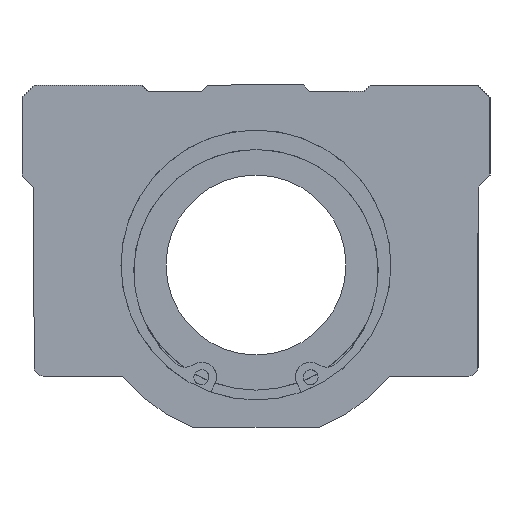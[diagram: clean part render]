
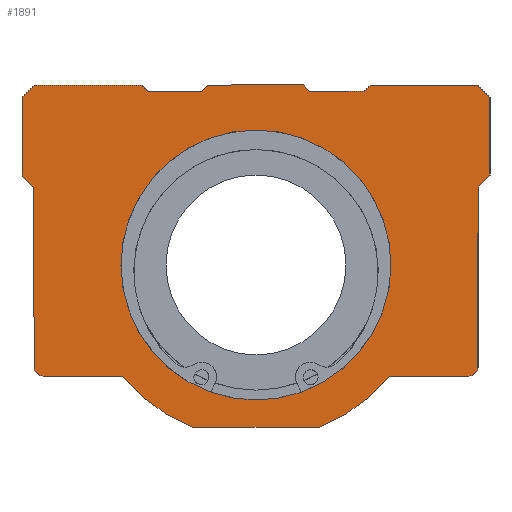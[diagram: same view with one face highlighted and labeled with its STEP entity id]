
A CAD part, left-side view. The second image highlights one B-rep face of the part: STEP entity #1891.
In plain terms, the highlighted planar face has unit normal (-1, 0, 0).
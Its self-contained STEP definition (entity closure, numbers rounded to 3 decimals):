
#1279=CARTESIAN_POINT('',(0.0,22.5,0.));
#1280=VERTEX_POINT('',#1279);
#1281=CARTESIAN_POINT('',(0.0,0.0,0.0));
#1282=DIRECTION('',(1.0,0.0,0.0));
#1283=DIRECTION('',(0.0,-1.0,0.0));
#1284=AXIS2_PLACEMENT_3D('',#1281,#1282,#1283);
#1285=CIRCLE('',#1284,22.5);
#1286=EDGE_CURVE('',#1280,#1280,#1285,.T.);
#1302=CARTESIAN_POINT('',(0.0,9.,29.));
#1303=VERTEX_POINT('',#1302);
#1304=CARTESIAN_POINT('',(0.0,8.,30.));
#1305=VERTEX_POINT('',#1304);
#1306=CARTESIAN_POINT('',(0.0,9.,29.));
#1307=DIRECTION('',(0.0,-0.707,0.707));
#1308=VECTOR('',#1307,1.414);
#1309=LINE('',#1306,#1308);
#1310=EDGE_CURVE('',#1303,#1305,#1309,.T.);
#1352=CARTESIAN_POINT('',(0.0,-8.,30.));
#1353=VERTEX_POINT('',#1352);
#1360=CARTESIAN_POINT('',(0.0,-9.,29.));
#1361=VERTEX_POINT('',#1360);
#1362=CARTESIAN_POINT('',(0.0,-8.,30.));
#1363=DIRECTION('',(0.0,-0.707,-0.707));
#1364=VECTOR('',#1363,1.414);
#1365=LINE('',#1362,#1364);
#1366=EDGE_CURVE('',#1353,#1361,#1365,.T.);
#1389=CARTESIAN_POINT('',(0.0,8.,30.));
#1390=DIRECTION('',(0.0,-1.0,0.0));
#1391=VECTOR('',#1390,16.);
#1392=LINE('',#1389,#1391);
#1393=EDGE_CURVE('',#1305,#1353,#1392,.T.);
#1413=CARTESIAN_POINT('',(0.0,18.0,29.));
#1414=VERTEX_POINT('',#1413);
#1421=CARTESIAN_POINT('',(0.0,18.0,29.));
#1422=DIRECTION('',(0.0,-1.0,0.0));
#1423=VECTOR('',#1422,9.);
#1424=LINE('',#1421,#1423);
#1425=EDGE_CURVE('',#1414,#1303,#1424,.T.);
#1436=CARTESIAN_POINT('',(0.0,-18.0,29.));
#1437=VERTEX_POINT('',#1436);
#1438=CARTESIAN_POINT('',(0.0,-9.,29.));
#1439=DIRECTION('',(0.0,-1.0,0.0));
#1440=VECTOR('',#1439,9.);
#1441=LINE('',#1438,#1440);
#1442=EDGE_CURVE('',#1361,#1437,#1441,.T.);
#1477=CARTESIAN_POINT('',(0.0,35.5,-18.5));
#1478=VERTEX_POINT('',#1477);
#1485=CARTESIAN_POINT('',(0.0,37.,-17.));
#1486=VERTEX_POINT('',#1485);
#1487=CARTESIAN_POINT('',(0.0,35.5,-17.));
#1488=DIRECTION('',(1.0,0.0,0.0));
#1489=DIRECTION('',(0.0,0.707,-0.707));
#1490=AXIS2_PLACEMENT_3D('',#1487,#1488,#1489);
#1491=CIRCLE('',#1490,1.5);
#1492=EDGE_CURVE('',#1478,#1486,#1491,.T.);
#1517=CARTESIAN_POINT('',(0.0,22.333,-18.5));
#1518=VERTEX_POINT('',#1517);
#1525=CARTESIAN_POINT('',(0.0,22.333,-18.5));
#1526=DIRECTION('',(0.0,1.0,0.0));
#1527=VECTOR('',#1526,13.167);
#1528=LINE('',#1525,#1527);
#1529=EDGE_CURVE('',#1518,#1478,#1528,.T.);
#1723=CARTESIAN_POINT('',(0.0,-37.,-17.));
#1724=VERTEX_POINT('',#1723);
#1731=CARTESIAN_POINT('',(0.0,-35.5,-18.5));
#1732=VERTEX_POINT('',#1731);
#1733=CARTESIAN_POINT('',(0.0,-35.5,-17.));
#1734=DIRECTION('',(1.0,0.0,0.0));
#1735=DIRECTION('',(0.0,-0.707,-0.707));
#1736=AXIS2_PLACEMENT_3D('',#1733,#1734,#1735);
#1737=CIRCLE('',#1736,1.5);
#1738=EDGE_CURVE('',#1724,#1732,#1737,.T.);
#1749=CARTESIAN_POINT('',(0.0,0.,3.997));
#1750=DIRECTION('',(1.0,0.0,0.0));
#1751=DIRECTION('',(0.0,0.0,-1.0));
#1752=AXIS2_PLACEMENT_3D('',#1749,#1750,#1751);
#1753=PLANE('',#1752);
#1754=ORIENTED_EDGE('',*,*,#1492,.F.);
#1755=ORIENTED_EDGE('',*,*,#1529,.F.);
#1756=CARTESIAN_POINT('',(0.0,10.583,-27.0));
#1757=VERTEX_POINT('',#1756);
#1758=CARTESIAN_POINT('',(0.0,0.0,0.0));
#1759=DIRECTION('',(1.,0.0,0.0));
#1760=DIRECTION('',(0.0,0.365,-0.931));
#1761=AXIS2_PLACEMENT_3D('',#1758,#1759,#1760);
#1762=CIRCLE('',#1761,29.0);
#1763=EDGE_CURVE('',#1757,#1518,#1762,.T.);
#1764=ORIENTED_EDGE('',*,*,#1763,.F.);
#1765=CARTESIAN_POINT('',(0.0,-10.583,-27.0));
#1766=VERTEX_POINT('',#1765);
#1767=CARTESIAN_POINT('',(0.0,-10.583,-27.0));
#1768=DIRECTION('',(0.0,1.0,0.0));
#1769=VECTOR('',#1768,21.166);
#1770=LINE('',#1767,#1769);
#1771=EDGE_CURVE('',#1766,#1757,#1770,.T.);
#1772=ORIENTED_EDGE('',*,*,#1771,.F.);
#1773=CARTESIAN_POINT('',(0.0,-22.333,-18.5));
#1774=VERTEX_POINT('',#1773);
#1775=CARTESIAN_POINT('',(0.0,0.0,0.0));
#1776=DIRECTION('',(1.,0.0,0.0));
#1777=DIRECTION('',(0.0,0.365,-0.931));
#1778=AXIS2_PLACEMENT_3D('',#1775,#1776,#1777);
#1779=CIRCLE('',#1778,29.0);
#1780=EDGE_CURVE('',#1774,#1766,#1779,.T.);
#1781=ORIENTED_EDGE('',*,*,#1780,.F.);
#1782=CARTESIAN_POINT('',(0.0,-35.5,-18.5));
#1783=DIRECTION('',(0.0,1.0,0.0));
#1784=VECTOR('',#1783,13.167);
#1785=LINE('',#1782,#1784);
#1786=EDGE_CURVE('',#1732,#1774,#1785,.T.);
#1787=ORIENTED_EDGE('',*,*,#1786,.F.);
#1788=ORIENTED_EDGE('',*,*,#1738,.F.);
#1789=CARTESIAN_POINT('',(0.0,-37.,13.));
#1790=VERTEX_POINT('',#1789);
#1791=CARTESIAN_POINT('',(0.0,-37.,13.));
#1792=DIRECTION('',(0.0,0.0,-1.0));
#1793=VECTOR('',#1792,30.);
#1794=LINE('',#1791,#1793);
#1795=EDGE_CURVE('',#1790,#1724,#1794,.T.);
#1796=ORIENTED_EDGE('',*,*,#1795,.F.);
#1797=CARTESIAN_POINT('',(0.0,-39.0,15.));
#1798=VERTEX_POINT('',#1797);
#1799=CARTESIAN_POINT('',(0.0,-39.0,15.));
#1800=DIRECTION('',(0.0,0.707,-0.707));
#1801=VECTOR('',#1800,2.828);
#1802=LINE('',#1799,#1801);
#1803=EDGE_CURVE('',#1798,#1790,#1802,.T.);
#1804=ORIENTED_EDGE('',*,*,#1803,.F.);
#1805=CARTESIAN_POINT('',(0.0,-39.0,28.));
#1806=VERTEX_POINT('',#1805);
#1807=CARTESIAN_POINT('',(0.0,-39.0,28.));
#1808=DIRECTION('',(0.0,0.0,-1.0));
#1809=VECTOR('',#1808,13.);
#1810=LINE('',#1807,#1809);
#1811=EDGE_CURVE('',#1806,#1798,#1810,.T.);
#1812=ORIENTED_EDGE('',*,*,#1811,.F.);
#1813=CARTESIAN_POINT('',(0.0,-37.0,30.));
#1814=VERTEX_POINT('',#1813);
#1815=CARTESIAN_POINT('',(0.0,-37.0,30.));
#1816=DIRECTION('',(0.0,-0.707,-0.707));
#1817=VECTOR('',#1816,2.828);
#1818=LINE('',#1815,#1817);
#1819=EDGE_CURVE('',#1814,#1806,#1818,.T.);
#1820=ORIENTED_EDGE('',*,*,#1819,.F.);
#1821=CARTESIAN_POINT('',(0.0,-19.0,30.));
#1822=VERTEX_POINT('',#1821);
#1823=CARTESIAN_POINT('',(0.0,-19.0,30.));
#1824=DIRECTION('',(0.0,-1.0,0.0));
#1825=VECTOR('',#1824,18.0);
#1826=LINE('',#1823,#1825);
#1827=EDGE_CURVE('',#1822,#1814,#1826,.T.);
#1828=ORIENTED_EDGE('',*,*,#1827,.F.);
#1829=CARTESIAN_POINT('',(0.0,-18.0,29.));
#1830=DIRECTION('',(0.0,-0.707,0.707));
#1831=VECTOR('',#1830,1.414);
#1832=LINE('',#1829,#1831);
#1833=EDGE_CURVE('',#1437,#1822,#1832,.T.);
#1834=ORIENTED_EDGE('',*,*,#1833,.F.);
#1835=ORIENTED_EDGE('',*,*,#1442,.F.);
#1836=ORIENTED_EDGE('',*,*,#1366,.F.);
#1837=ORIENTED_EDGE('',*,*,#1393,.F.);
#1838=ORIENTED_EDGE('',*,*,#1310,.F.);
#1839=ORIENTED_EDGE('',*,*,#1425,.F.);
#1840=CARTESIAN_POINT('',(0.0,19.0,30.));
#1841=VERTEX_POINT('',#1840);
#1842=CARTESIAN_POINT('',(0.0,19.0,30.));
#1843=DIRECTION('',(0.0,-0.707,-0.707));
#1844=VECTOR('',#1843,1.414);
#1845=LINE('',#1842,#1844);
#1846=EDGE_CURVE('',#1841,#1414,#1845,.T.);
#1847=ORIENTED_EDGE('',*,*,#1846,.F.);
#1848=CARTESIAN_POINT('',(0.0,37.0,30.));
#1849=VERTEX_POINT('',#1848);
#1850=CARTESIAN_POINT('',(0.0,37.0,30.));
#1851=DIRECTION('',(0.0,-1.0,0.0));
#1852=VECTOR('',#1851,18.0);
#1853=LINE('',#1850,#1852);
#1854=EDGE_CURVE('',#1849,#1841,#1853,.T.);
#1855=ORIENTED_EDGE('',*,*,#1854,.F.);
#1856=CARTESIAN_POINT('',(0.0,39.0,28.));
#1857=VERTEX_POINT('',#1856);
#1858=CARTESIAN_POINT('',(0.0,39.0,28.));
#1859=DIRECTION('',(0.0,-0.707,0.707));
#1860=VECTOR('',#1859,2.828);
#1861=LINE('',#1858,#1860);
#1862=EDGE_CURVE('',#1857,#1849,#1861,.T.);
#1863=ORIENTED_EDGE('',*,*,#1862,.F.);
#1864=CARTESIAN_POINT('',(0.0,39.0,15.));
#1865=VERTEX_POINT('',#1864);
#1866=CARTESIAN_POINT('',(0.0,39.0,15.));
#1867=DIRECTION('',(0.0,0.0,1.0));
#1868=VECTOR('',#1867,13.);
#1869=LINE('',#1866,#1868);
#1870=EDGE_CURVE('',#1865,#1857,#1869,.T.);
#1871=ORIENTED_EDGE('',*,*,#1870,.F.);
#1872=CARTESIAN_POINT('',(0.0,37.,13.));
#1873=VERTEX_POINT('',#1872);
#1874=CARTESIAN_POINT('',(0.0,37.,13.));
#1875=DIRECTION('',(0.0,0.707,0.707));
#1876=VECTOR('',#1875,2.828);
#1877=LINE('',#1874,#1876);
#1878=EDGE_CURVE('',#1873,#1865,#1877,.T.);
#1879=ORIENTED_EDGE('',*,*,#1878,.F.);
#1880=CARTESIAN_POINT('',(0.0,37.,-17.));
#1881=DIRECTION('',(0.0,0.0,1.0));
#1882=VECTOR('',#1881,30.);
#1883=LINE('',#1880,#1882);
#1884=EDGE_CURVE('',#1486,#1873,#1883,.T.);
#1885=ORIENTED_EDGE('',*,*,#1884,.F.);
#1886=EDGE_LOOP('',(#1754,#1755,#1764,#1772,#1781,#1787,#1788,#1796,#1804,#1812,#1820,#1828,#1834,#1835,#1836,#1837,#1838,#1839,#1847,#1855,#1863,#1871,#1879,#1885));
#1887=FACE_OUTER_BOUND('',#1886,.T.);
#1888=ORIENTED_EDGE('',*,*,#1286,.T.);
#1889=EDGE_LOOP('',(#1888));
#1890=FACE_BOUND('',#1889,.T.);
#1891=ADVANCED_FACE('',(#1887,#1890),#1753,.F.);
